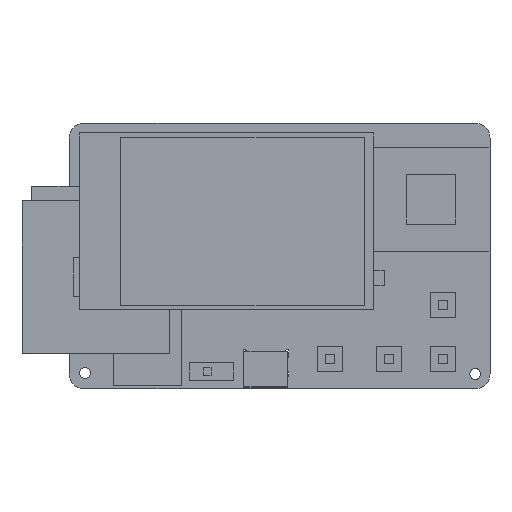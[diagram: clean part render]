
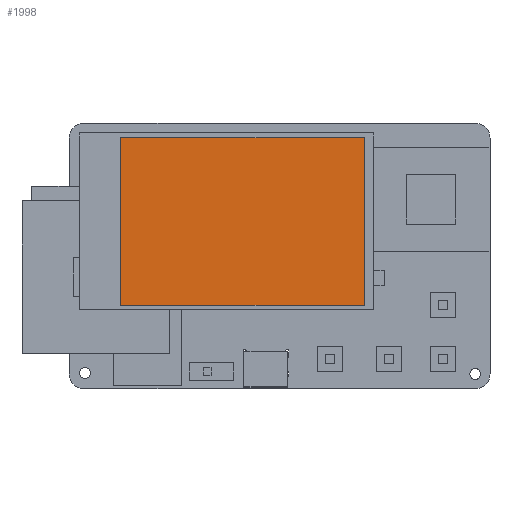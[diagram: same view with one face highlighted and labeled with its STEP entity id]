
A CAD part, top view. The second image highlights one B-rep face of the part: STEP entity #1998.
In plain terms, the highlighted planar face has unit normal (0, 0, 1).
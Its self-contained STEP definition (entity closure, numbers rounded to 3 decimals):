
#1866 = EDGE_CURVE('',#1867,#1869,#1871,.T.);
#1867 = VERTEX_POINT('',#1868);
#1868 = CARTESIAN_POINT('',(6.,-31.,15.04));
#1869 = VERTEX_POINT('',#1870);
#1870 = CARTESIAN_POINT('',(6.,3.,15.04));
#1871 = LINE('',#1872,#1873);
#1872 = CARTESIAN_POINT('',(6.,-31.,15.04));
#1873 = VECTOR('',#1874,1.);
#1874 = DIRECTION('',(0.,1.,0.));
#1917 = VERTEX_POINT('',#1918);
#1918 = CARTESIAN_POINT('',(55.5,3.,15.04));
#1924 = EDGE_CURVE('',#1925,#1917,#1927,.T.);
#1925 = VERTEX_POINT('',#1926);
#1926 = CARTESIAN_POINT('',(55.5,-31.,15.04));
#1927 = LINE('',#1928,#1929);
#1928 = CARTESIAN_POINT('',(55.5,-31.,15.04));
#1929 = VECTOR('',#1930,1.);
#1930 = DIRECTION('',(0.,1.,0.));
#1947 = EDGE_CURVE('',#1867,#1925,#1948,.T.);
#1948 = LINE('',#1949,#1950);
#1949 = CARTESIAN_POINT('',(6.,-31.,15.04));
#1950 = VECTOR('',#1951,1.);
#1951 = DIRECTION('',(1.,0.,0.));
#1969 = EDGE_CURVE('',#1869,#1917,#1970,.T.);
#1970 = LINE('',#1971,#1972);
#1971 = CARTESIAN_POINT('',(6.,3.,15.04));
#1972 = VECTOR('',#1973,1.);
#1973 = DIRECTION('',(1.,0.,0.));
#1998 = ADVANCED_FACE('',(#1999),#2005,.T.);
#1999 = FACE_BOUND('',#2000,.T.);
#2000 = EDGE_LOOP('',(#2001,#2002,#2003,#2004));
#2001 = ORIENTED_EDGE('',*,*,#1947,.T.);
#2002 = ORIENTED_EDGE('',*,*,#1924,.T.);
#2003 = ORIENTED_EDGE('',*,*,#1969,.F.);
#2004 = ORIENTED_EDGE('',*,*,#1866,.F.);
#2005 = PLANE('',#2006);
#2006 = AXIS2_PLACEMENT_3D('',#2007,#2008,#2009);
#2007 = CARTESIAN_POINT('',(6.,-31.,15.04));
#2008 = DIRECTION('',(0.,0.,1.));
#2009 = DIRECTION('',(1.,0.,-0.));
